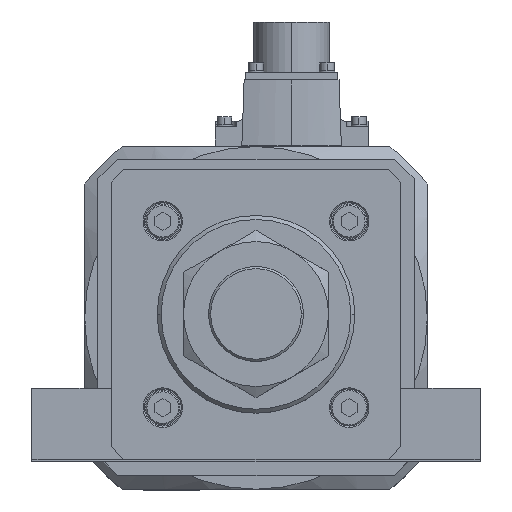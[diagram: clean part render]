
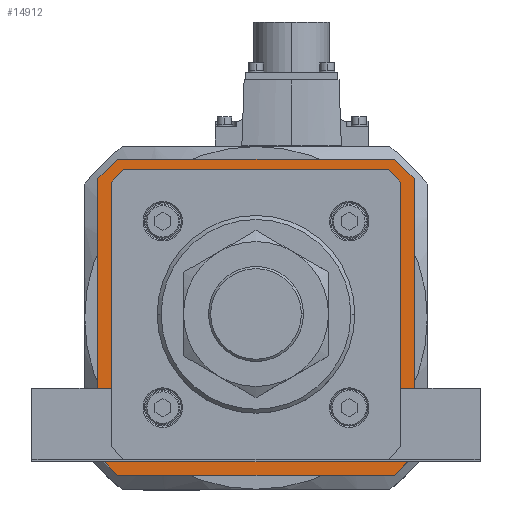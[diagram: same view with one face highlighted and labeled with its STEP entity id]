
A CAD part, top view. The second image highlights one B-rep face of the part: STEP entity #14912.
In plain terms, the highlighted planar face has unit normal (0, 0, 1).
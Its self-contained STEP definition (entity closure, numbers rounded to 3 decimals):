
#17 = LINE ( 'NONE', #1988, #14594 ) ;
#194 = VERTEX_POINT ( 'NONE', #30241 ) ;
#956 = EDGE_CURVE ( 'NONE', #9329, #32232, #18905, .T. ) ;
#1213 = CARTESIAN_POINT ( 'NONE',  ( -60., 52.5, -119. ) ) ;
#1988 = CARTESIAN_POINT ( 'NONE',  ( -49.446, 53.646, -119. ) ) ;
#2309 = LINE ( 'NONE', #8002, #28277 ) ;
#2645 = LINE ( 'NONE', #19527, #27161 ) ;
#3961 = EDGE_CURVE ( 'NONE', #8287, #24932, #2309, .T. ) ;
#4154 = CARTESIAN_POINT ( 'NONE',  ( 52.5, -60., -119. ) ) ;
#4195 = ORIENTED_EDGE ( 'NONE', *, *, #29380, .F. ) ;
#4285 = VERTEX_POINT ( 'NONE', #19127 ) ;
#4740 = VERTEX_POINT ( 'NONE', #15388 ) ;
#4832 = CARTESIAN_POINT ( 'NONE',  ( -52.5, 60., -119. ) ) ;
#5361 = ORIENTED_EDGE ( 'NONE', *, *, #29171, .T. ) ;
#5992 = CARTESIAN_POINT ( 'NONE',  ( 53.5, -49.8, -119. ) ) ;
#6080 = CARTESIAN_POINT ( 'NONE',  ( -60., 52.5, -119. ) ) ;
#6322 = LINE ( 'NONE', #10047, #15481 ) ;
#6774 = ORIENTED_EDGE ( 'NONE', *, *, #35816, .T. ) ;
#7168 = VERTEX_POINT ( 'NONE', #18045 ) ;
#7792 = LINE ( 'NONE', #28168, #28275 ) ;
#8002 = CARTESIAN_POINT ( 'NONE',  ( 52.5, 60., -119. ) ) ;
#8287 = VERTEX_POINT ( 'NONE', #8987 ) ;
#8329 = EDGE_CURVE ( 'NONE', #29453, #9209, #20526, .T. ) ;
#8737 = DIRECTION ( 'NONE',  ( 0., -1., 0. ) ) ;
#8987 = CARTESIAN_POINT ( 'NONE',  ( -52.5, 60., -119. ) ) ;
#9209 = VERTEX_POINT ( 'NONE', #31607 ) ;
#9329 = VERTEX_POINT ( 'NONE', #11333 ) ;
#9441 = VERTEX_POINT ( 'NONE', #6080 ) ;
#10047 = CARTESIAN_POINT ( 'NONE',  ( -52.5, -60., -119. ) ) ;
#10340 = VECTOR ( 'NONE', #12859, 1000. ) ;
#11133 = CARTESIAN_POINT ( 'NONE',  ( -49.8, -53.5, -119. ) ) ;
#11140 = VECTOR ( 'NONE', #34932, 1000. ) ;
#11145 = EDGE_CURVE ( 'NONE', #9209, #11551, #24896, .T. ) ;
#11333 = CARTESIAN_POINT ( 'NONE',  ( 53.5, 49.593, -119. ) ) ;
#11551 = VERTEX_POINT ( 'NONE', #4154 ) ;
#11635 = LINE ( 'NONE', #11133, #18023 ) ;
#11883 = VERTEX_POINT ( 'NONE', #20537 ) ;
#12651 = CARTESIAN_POINT ( 'NONE',  ( -53.646, -49.446, -119. ) ) ;
#12680 = ORIENTED_EDGE ( 'NONE', *, *, #36435, .F. ) ;
#12859 = DIRECTION ( 'NONE',  ( -1., 0., 0. ) ) ;
#12915 = CARTESIAN_POINT ( 'NONE',  ( 52.5, 60., -119. ) ) ;
#13283 = ORIENTED_EDGE ( 'NONE', *, *, #34670, .T. ) ;
#13671 = EDGE_CURVE ( 'NONE', #35071, #9441, #36837, .T. ) ;
#13972 = VERTEX_POINT ( 'NONE', #29570 ) ;
#13981 = CARTESIAN_POINT ( 'NONE',  ( 60., -52.5, -119. ) ) ;
#14594 = VECTOR ( 'NONE', #36755, 1000. ) ;
#14912 = ADVANCED_FACE ( 'NONE', ( #21689, #22572 ), #16792, .T. ) ;
#15029 = ORIENTED_EDGE ( 'NONE', *, *, #21308, .F. ) ;
#15260 = EDGE_LOOP ( 'NONE', ( #28181, #13283, #27989, #5361, #6774, #36522, #29347, #36437 ) ) ;
#15388 = CARTESIAN_POINT ( 'NONE',  ( -53.5, -49.593, -119. ) ) ;
#15481 = VECTOR ( 'NONE', #18571, 1000. ) ;
#16313 = VECTOR ( 'NONE', #30224, 1000. ) ;
#16622 = DIRECTION ( 'NONE',  ( -1., 0., 0. ) ) ;
#16792 = PLANE ( 'NONE',  #22056 ) ;
#17098 = DIRECTION ( 'NONE',  ( 0.707, -0.707, 0. ) ) ;
#17271 = EDGE_CURVE ( 'NONE', #24932, #29453, #31565, .T. ) ;
#18023 = VECTOR ( 'NONE', #16622, 1000. ) ;
#18045 = CARTESIAN_POINT ( 'NONE',  ( -53.5, 49.593, -119. ) ) ;
#18235 = VECTOR ( 'NONE', #8737, 1000. ) ;
#18397 = ORIENTED_EDGE ( 'NONE', *, *, #3961, .F. ) ;
#18537 = VECTOR ( 'NONE', #20092, 1000. ) ;
#18558 = VECTOR ( 'NONE', #22890, 1000. ) ;
#18571 = DIRECTION ( 'NONE',  ( -0.707, 0.707, 0. ) ) ;
#18905 = LINE ( 'NONE', #5992, #11140 ) ;
#19127 = CARTESIAN_POINT ( 'NONE',  ( 49.593, -53.5, -119. ) ) ;
#19527 = CARTESIAN_POINT ( 'NONE',  ( 53.646, 49.446, -119. ) ) ;
#19655 = EDGE_CURVE ( 'NONE', #4740, #7168, #7792, .T. ) ;
#19913 = LINE ( 'NONE', #35907, #10340 ) ;
#20092 = DIRECTION ( 'NONE',  ( -0.707, -0.707, 0. ) ) ;
#20526 = LINE ( 'NONE', #35354, #18235 ) ;
#20537 = CARTESIAN_POINT ( 'NONE',  ( -49.593, -53.5, -119. ) ) ;
#20585 = CARTESIAN_POINT ( 'NONE',  ( 49.8, 53.5, -119. ) ) ;
#20698 = ORIENTED_EDGE ( 'NONE', *, *, #17271, .F. ) ;
#21216 = CARTESIAN_POINT ( 'NONE',  ( 53.5, -49.593, -119. ) ) ;
#21288 = VECTOR ( 'NONE', #26408, 1000. ) ;
#21308 = EDGE_CURVE ( 'NONE', #194, #35071, #6322, .T. ) ;
#21577 = ORIENTED_EDGE ( 'NONE', *, *, #8329, .F. ) ;
#21689 = FACE_BOUND ( 'NONE', #15260, .T. ) ;
#21757 = VECTOR ( 'NONE', #36871, 1000. ) ;
#22056 = AXIS2_PLACEMENT_3D ( 'NONE', #28484, #31314, #37146 ) ;
#22368 = CARTESIAN_POINT ( 'NONE',  ( 60., 52.5, -119. ) ) ;
#22479 = VERTEX_POINT ( 'NONE', #31959 ) ;
#22572 = FACE_OUTER_BOUND ( 'NONE', #32204, .T. ) ;
#22890 = DIRECTION ( 'NONE',  ( -0.707, -0.707, 0. ) ) ;
#23395 = CARTESIAN_POINT ( 'NONE',  ( 49.446, -53.646, -119. ) ) ;
#23479 = LINE ( 'NONE', #23395, #18558 ) ;
#24718 = DIRECTION ( 'NONE',  ( 0.707, -0.707, 0. ) ) ;
#24896 = LINE ( 'NONE', #13981, #18537 ) ;
#24932 = VERTEX_POINT ( 'NONE', #12915 ) ;
#26160 = LINE ( 'NONE', #4832, #30782 ) ;
#26408 = DIRECTION ( 'NONE',  ( 1., 0., 0. ) ) ;
#26662 = ORIENTED_EDGE ( 'NONE', *, *, #11145, .F. ) ;
#27018 = CARTESIAN_POINT ( 'NONE',  ( 60., 52.5, -119. ) ) ;
#27161 = VECTOR ( 'NONE', #17098, 1000. ) ;
#27604 = DIRECTION ( 'NONE',  ( 0.707, 0.707, 0. ) ) ;
#27989 = ORIENTED_EDGE ( 'NONE', *, *, #956, .T. ) ;
#28168 = CARTESIAN_POINT ( 'NONE',  ( -53.5, 49.8, -119. ) ) ;
#28181 = ORIENTED_EDGE ( 'NONE', *, *, #33918, .T. ) ;
#28275 = VECTOR ( 'NONE', #30750, 1000. ) ;
#28277 = VECTOR ( 'NONE', #28351, 1000. ) ;
#28351 = DIRECTION ( 'NONE',  ( 1., 0., 0. ) ) ;
#28484 = CARTESIAN_POINT ( 'NONE',  ( 0., 0., -119. ) ) ;
#29165 = ORIENTED_EDGE ( 'NONE', *, *, #13671, .F. ) ;
#29171 = EDGE_CURVE ( 'NONE', #32232, #4285, #23479, .T. ) ;
#29347 = ORIENTED_EDGE ( 'NONE', *, *, #19655, .T. ) ;
#29380 = EDGE_CURVE ( 'NONE', #11551, #194, #19913, .T. ) ;
#29453 = VERTEX_POINT ( 'NONE', #22368 ) ;
#29570 = CARTESIAN_POINT ( 'NONE',  ( 49.593, 53.5, -119. ) ) ;
#29701 = VECTOR ( 'NONE', #24718, 1000. ) ;
#30224 = DIRECTION ( 'NONE',  ( -0.707, 0.707, 0. ) ) ;
#30241 = CARTESIAN_POINT ( 'NONE',  ( -52.5, -60., -119. ) ) ;
#30750 = DIRECTION ( 'NONE',  ( 0., 1., 0. ) ) ;
#30782 = VECTOR ( 'NONE', #27604, 1000. ) ;
#31314 = DIRECTION ( 'NONE',  ( 0., 0., 1. ) ) ;
#31565 = LINE ( 'NONE', #27018, #29701 ) ;
#31607 = CARTESIAN_POINT ( 'NONE',  ( 60., -52.5, -119. ) ) ;
#31818 = LINE ( 'NONE', #20585, #21288 ) ;
#31959 = CARTESIAN_POINT ( 'NONE',  ( -49.593, 53.5, -119. ) ) ;
#32204 = EDGE_LOOP ( 'NONE', ( #18397, #12680, #29165, #15029, #4195, #26662, #21577, #20698 ) ) ;
#32232 = VERTEX_POINT ( 'NONE', #21216 ) ;
#32467 = EDGE_CURVE ( 'NONE', #7168, #22479, #17, .T. ) ;
#33918 = EDGE_CURVE ( 'NONE', #22479, #13972, #31818, .T. ) ;
#34528 = EDGE_CURVE ( 'NONE', #11883, #4740, #34990, .T. ) ;
#34670 = EDGE_CURVE ( 'NONE', #13972, #9329, #2645, .T. ) ;
#34932 = DIRECTION ( 'NONE',  ( 0., -1., 0. ) ) ;
#34990 = LINE ( 'NONE', #12651, #16313 ) ;
#35071 = VERTEX_POINT ( 'NONE', #35661 ) ;
#35354 = CARTESIAN_POINT ( 'NONE',  ( 60., 52.5, -119. ) ) ;
#35661 = CARTESIAN_POINT ( 'NONE',  ( -60., -52.5, -119. ) ) ;
#35816 = EDGE_CURVE ( 'NONE', #4285, #11883, #11635, .T. ) ;
#35907 = CARTESIAN_POINT ( 'NONE',  ( 52.5, -60., -119. ) ) ;
#36435 = EDGE_CURVE ( 'NONE', #9441, #8287, #26160, .T. ) ;
#36437 = ORIENTED_EDGE ( 'NONE', *, *, #32467, .T. ) ;
#36522 = ORIENTED_EDGE ( 'NONE', *, *, #34528, .T. ) ;
#36755 = DIRECTION ( 'NONE',  ( 0.707, 0.707, 0. ) ) ;
#36837 = LINE ( 'NONE', #1213, #21757 ) ;
#36871 = DIRECTION ( 'NONE',  ( 0., 1., 0. ) ) ;
#37146 = DIRECTION ( 'NONE',  ( 1., 0., 0. ) ) ;
